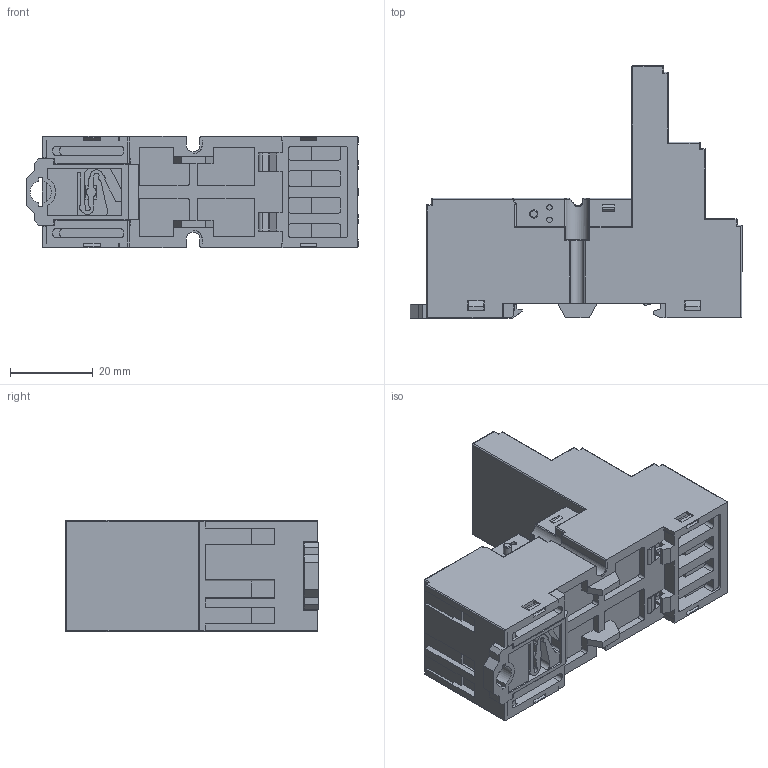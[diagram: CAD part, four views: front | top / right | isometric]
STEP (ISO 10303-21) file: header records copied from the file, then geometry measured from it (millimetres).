
FILE_DESCRIPTION (( 'STEP AP203' ), '1' );
FILE_NAME ('SKC14-E 俋倛.STEP', '2023-08-01T09:42:31', ( 'admin' ), ( '' ), 'SwSTEP 2.0', 'SolidWorks 2022', '' );
FILE_SCHEMA (( 'CONFIG_CONTROL_DESIGN' ));
Length unit declared in the file: millimetre
Products named in the file (1): SKC14-E 俋倛
Bounding box: 80.37 x 61.1 x 26.9 mm (x, y, z)
Volume: 58640.8 mm3; surface area: 19564 mm2
Topology: 1 solids, 1 shells, 1523 faces, 4150 edges, 2664 vertices
Faces by surface type: plane 959, cylinder 323, torus 148, cone 67, sphere 22, bspline 4
Entity records: 50523 total; most frequent: CARTESIAN_POINT 12371, ORIENTED_EDGE 8196, DIRECTION 7576, EDGE_CURVE 4098, LINE 2712, VECTOR 2712, VERTEX_POINT 2664, AXIS2_PLACEMENT_3D 2432
